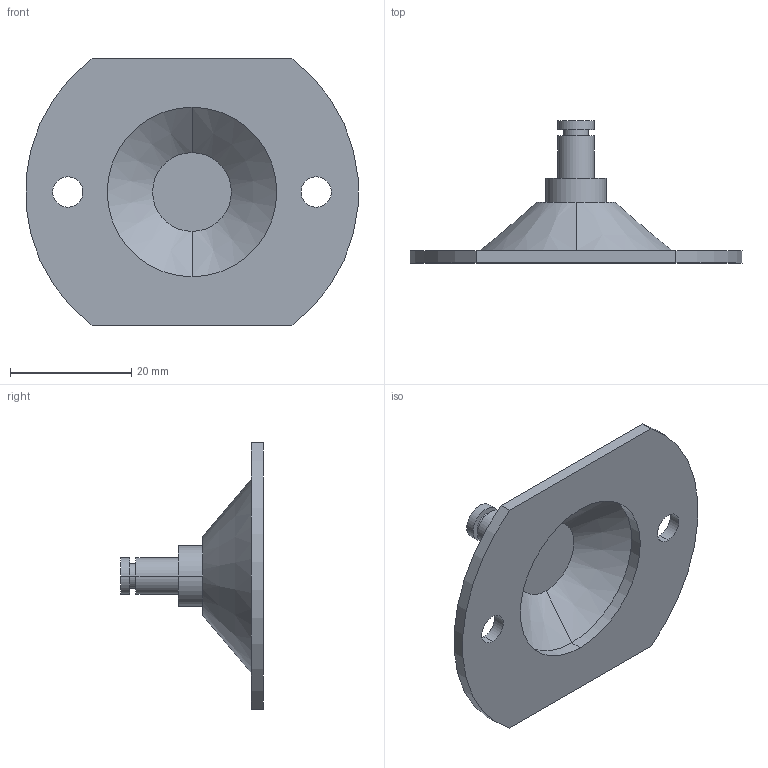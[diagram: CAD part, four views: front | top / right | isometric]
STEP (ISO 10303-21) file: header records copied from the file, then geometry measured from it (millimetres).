
FILE_DESCRIPTION (( 'STEP AP214' ), '1' );
FILE_NAME ('15.BVS-014.STEP', '2017-10-09T07:12:02', ( '' ), ( '' ), 'SwSTEP 2.0', 'SolidWorks 2016', '' );
FILE_SCHEMA (( 'AUTOMOTIVE_DESIGN' ));
Length unit declared in the file: millimetre
Products named in the file (1): 15.BVS-014
Bounding box: 54.8 x 23.5 x 44 mm (x, y, z)
Volume: 4815.9 mm3; surface area: 5424 mm2
Topology: 1 solids, 1 shells, 30 faces, 64 edges, 42 vertices
Faces by surface type: cylinder 16, plane 10, cone 4
Entity records: 872 total; most frequent: DIRECTION 164, CARTESIAN_POINT 137, ORIENTED_EDGE 128, AXIS2_PLACEMENT_3D 69, EDGE_CURVE 64, VERTEX_POINT 42, EDGE_LOOP 40, CIRCLE 38
